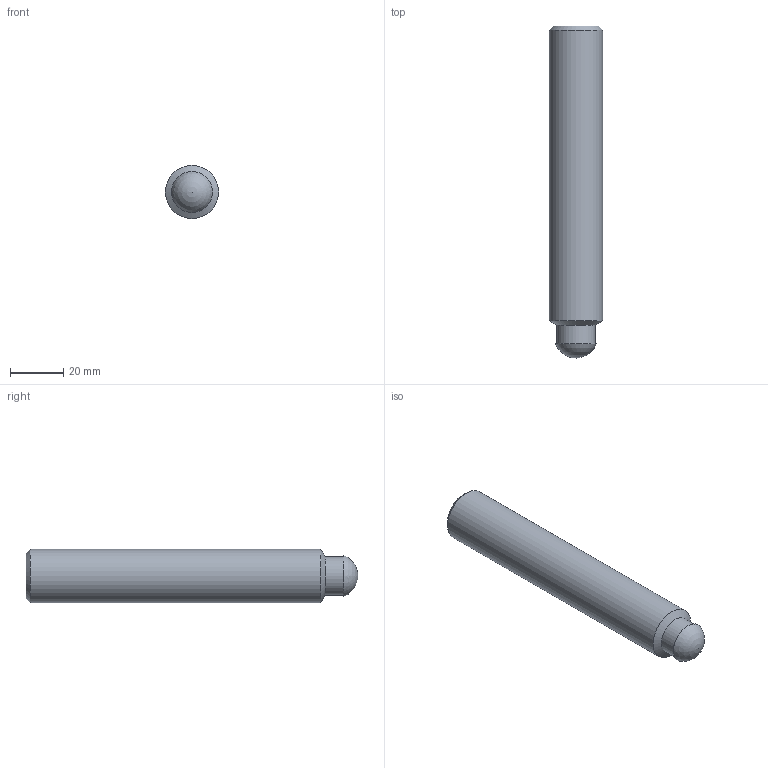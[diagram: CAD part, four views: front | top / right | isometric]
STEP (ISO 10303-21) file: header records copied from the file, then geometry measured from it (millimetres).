
FILE_DESCRIPTION( ( 'STEP AP203' ), '1' );
FILE_NAME( 'C:/Temp/Ganter_Step_05_03_2020/data/3_2/din6332/din6332_ni/Stainless Steel-Grub screw DIN 6332-M20-125-SKN-NI.stp', '2020-03-13T05:16:47', ( 'License CC BY-ND 4.0' ), ( 'CADENAS' ), ' ', 'PARTsolutions', ' ' );
FILE_SCHEMA( ( 'CONFIG_CONTROL_DESIGN' ) );
Length unit declared in the file: millimetre
Products named in the file (1): _Stainless Steel-Grub screw DIN 6332-M20-125-SKN-NI
Bounding box: 20 x 125 x 20 mm (x, y, z)
Volume: 36478.3 mm3; surface area: 8199 mm2
Topology: 1 solids, 1 shells, 15 faces, 33 edges, 21 vertices
Faces by surface type: plane 9, cylinder 3, cone 2, sphere 1
Full cylindrical faces by diameter (mm): 14.4 x1, 15.5 x1, 20 x1
Entity records: 410 total; most frequent: DIRECTION 64, CARTESIAN_POINT 61, ORIENTED_EDGE 50, EDGE_CURVE 25, AXIS2_PLACEMENT_3D 23, EDGE_LOOP 22, VERTEX_POINT 20, FACE_OUTER_BOUND 18
